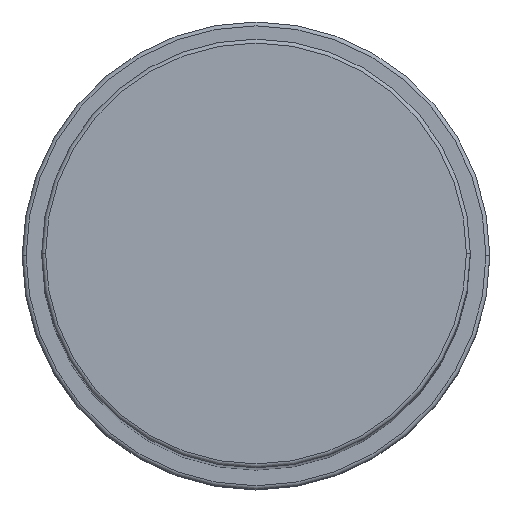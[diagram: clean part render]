
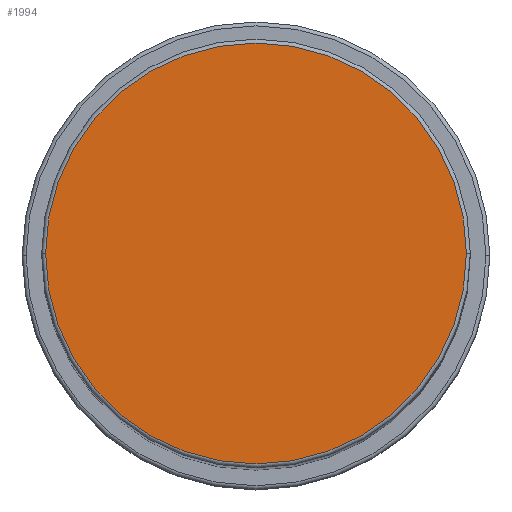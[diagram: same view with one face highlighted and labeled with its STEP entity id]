
A CAD part, top view. The second image highlights one B-rep face of the part: STEP entity #1994.
In plain terms, the highlighted planar face has unit normal (0, 0, 1).
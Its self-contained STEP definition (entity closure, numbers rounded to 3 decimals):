
#52 = VERTEX_POINT ( 'NONE', #994 ) ;
#148 = CIRCLE ( 'NONE', #1124, 27. ) ;
#316 = CARTESIAN_POINT ( 'NONE',  ( 27., 0., 183. ) ) ;
#361 = FACE_OUTER_BOUND ( 'NONE', #954, .T. ) ;
#413 = DIRECTION ( 'NONE',  ( 0., 0., 1. ) ) ;
#469 = DIRECTION ( 'NONE',  ( 0., 0., 1. ) ) ;
#512 = PLANE ( 'NONE',  #846 ) ;
#552 = VERTEX_POINT ( 'NONE', #316 ) ;
#581 = DIRECTION ( 'NONE',  ( 1., 0., 0. ) ) ;
#602 = DIRECTION ( 'NONE',  ( 1., 0., 0. ) ) ;
#788 = CIRCLE ( 'NONE', #1901, 27. ) ;
#845 = ORIENTED_EDGE ( 'NONE', *, *, #1659, .T. ) ;
#846 = AXIS2_PLACEMENT_3D ( 'NONE', #969, #469, #1879 ) ;
#954 = EDGE_LOOP ( 'NONE', ( #1312, #845 ) ) ;
#969 = CARTESIAN_POINT ( 'NONE',  ( 0., 0., 183. ) ) ;
#994 = CARTESIAN_POINT ( 'NONE',  ( -27., 0., 183. ) ) ;
#1124 = AXIS2_PLACEMENT_3D ( 'NONE', #1192, #1978, #602 ) ;
#1192 = CARTESIAN_POINT ( 'NONE',  ( 0., 0., 183. ) ) ;
#1200 = CARTESIAN_POINT ( 'NONE',  ( 0., 0., 183. ) ) ;
#1312 = ORIENTED_EDGE ( 'NONE', *, *, #1784, .T. ) ;
#1659 = EDGE_CURVE ( 'NONE', #52, #552, #788, .T. ) ;
#1784 = EDGE_CURVE ( 'NONE', #552, #52, #148, .T. ) ;
#1879 = DIRECTION ( 'NONE',  ( 1., 0., 0. ) ) ;
#1901 = AXIS2_PLACEMENT_3D ( 'NONE', #1200, #413, #581 ) ;
#1978 = DIRECTION ( 'NONE',  ( 0., 0., 1. ) ) ;
#1994 = ADVANCED_FACE ( 'NONE', ( #361 ), #512, .T. ) ;
